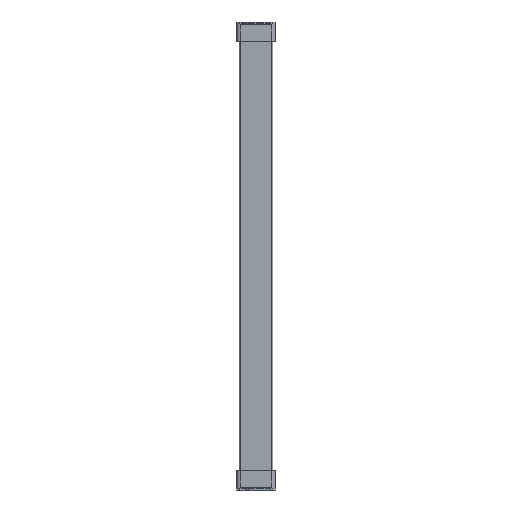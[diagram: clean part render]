
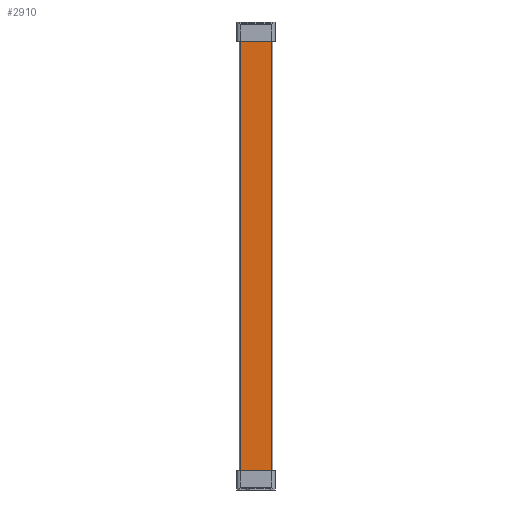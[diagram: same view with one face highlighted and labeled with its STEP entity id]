
A CAD part, front view. The second image highlights one B-rep face of the part: STEP entity #2910.
In plain terms, the highlighted planar face has unit normal (0, -1, 0).
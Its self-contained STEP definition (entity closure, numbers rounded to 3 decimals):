
#190 = PLANE ( 'NONE',  #2140 ) ;
#191 = CARTESIAN_POINT ( 'NONE',  ( 35., 0., -484. ) ) ;
#192 = DIRECTION ( 'NONE',  ( 0., -1., 0. ) ) ;
#193 = DIRECTION ( 'NONE',  ( 1., 0., 0. ) ) ;
#307 = LINE ( 'NONE', #308, #2193 ) ;
#308 = CARTESIAN_POINT ( 'NONE',  ( 34., 0., -465.5 ) ) ;
#309 = DIRECTION ( 'NONE',  ( -1., 0., 0. ) ) ;
#326 = LINE ( 'NONE', #327, #2202 ) ;
#327 = CARTESIAN_POINT ( 'NONE',  ( 34., 0., -18.5 ) ) ;
#328 = DIRECTION ( 'NONE',  ( -1., 0., 0. ) ) ;
#338 = LINE ( 'NONE', #339, #2207 ) ;
#339 = CARTESIAN_POINT ( 'NONE',  ( 1., 0., -484. ) ) ;
#340 = DIRECTION ( 'NONE',  ( 0., 0., -1. ) ) ;
#407 = LINE ( 'NONE', #408, #2243 ) ;
#408 = CARTESIAN_POINT ( 'NONE',  ( 34., 0., -484. ) ) ;
#409 = DIRECTION ( 'NONE',  ( 0., 0., 1. ) ) ;
#920 = VERTEX_POINT ( 'NONE', #2535 ) ;
#1016 = EDGE_LOOP ( 'NONE', ( #1729, #1726, #1727, #1728 ) ) ;
#1027 = VERTEX_POINT ( 'NONE', #2543 ) ;
#1144 = VERTEX_POINT ( 'NONE', #2557 ) ;
#1172 = VERTEX_POINT ( 'NONE', #2560 ) ;
#1726 = ORIENTED_EDGE ( 'NONE', *, *, #3037, .T. ) ;
#1727 = ORIENTED_EDGE ( 'NONE', *, *, #3013, .T. ) ;
#1728 = ORIENTED_EDGE ( 'NONE', *, *, #3017, .T. ) ;
#1729 = ORIENTED_EDGE ( 'NONE', *, *, #3007, .F. ) ;
#2137 = FACE_OUTER_BOUND ( 'NONE', #1016, .T. ) ;
#2140 = AXIS2_PLACEMENT_3D ( 'NONE', #191, #192, #193 ) ;
#2193 = VECTOR ( 'NONE', #309, 1000. ) ;
#2202 = VECTOR ( 'NONE', #328, 1000. ) ;
#2207 = VECTOR ( 'NONE', #340, 1000. ) ;
#2243 = VECTOR ( 'NONE', #409, 1000. ) ;
#2535 = CARTESIAN_POINT ( 'NONE',  ( 1., 0., -18.5 ) ) ;
#2543 = CARTESIAN_POINT ( 'NONE',  ( 34., 0., -465.5 ) ) ;
#2557 = CARTESIAN_POINT ( 'NONE',  ( 1., 0., -465.5 ) ) ;
#2560 = CARTESIAN_POINT ( 'NONE',  ( 34., 0., -18.5 ) ) ;
#2910 = ADVANCED_FACE ( 'NONE', ( #2137 ), #190, .T. ) ;
#3007 = EDGE_CURVE ( 'NONE', #1027, #1144, #307, .T. ) ;
#3013 = EDGE_CURVE ( 'NONE', #1172, #920, #326, .T. ) ;
#3017 = EDGE_CURVE ( 'NONE', #920, #1144, #338, .T. ) ;
#3037 = EDGE_CURVE ( 'NONE', #1027, #1172, #407, .T. ) ;
